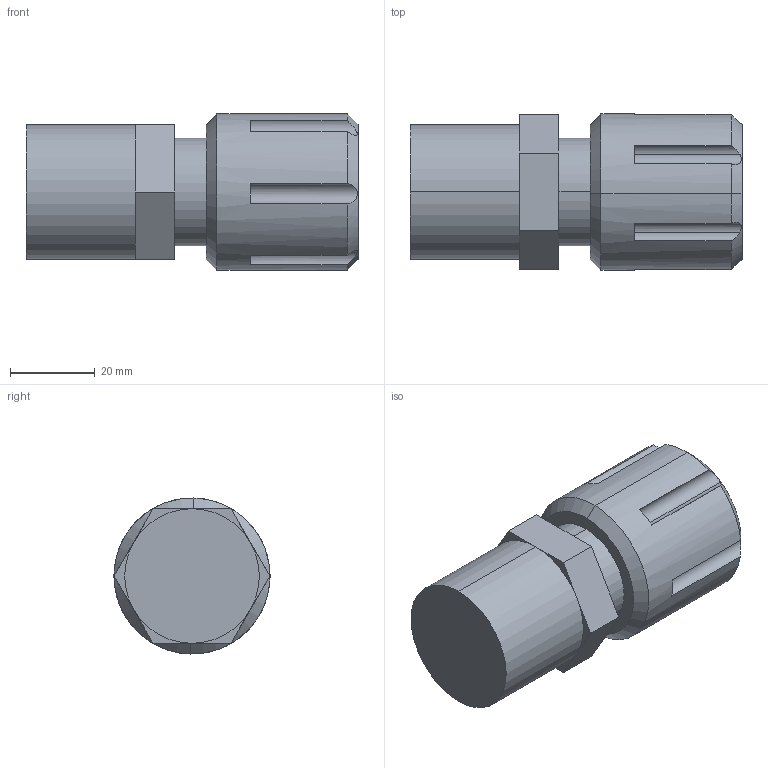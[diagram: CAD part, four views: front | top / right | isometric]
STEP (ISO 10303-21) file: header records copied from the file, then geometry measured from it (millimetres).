
FILE_DESCRIPTION (( 'STEP AP214' ), '1' );
FILE_NAME ('Fitting Flaretek Compatible 16.STEP', '2012-09-21T19:14:55', ( '' ), ( '' ), 'SwSTEP 2.0', 'SolidWorks 2012', '' );
FILE_SCHEMA (( 'AUTOMOTIVE_DESIGN' ));
Length unit declared in the file: inch
Products named in the file (1): Fitting Flaretek Compatible 16
Bounding box: 78.33 x 36.82 x 36.82 mm (x, y, z)
Volume: 65550.5 mm3; surface area: 11826.8 mm2
Topology: 1 solids, 1 shells, 43 faces, 102 edges, 64 vertices
Faces by surface type: plane 23, cylinder 16, cone 4
Entity records: 1662 total; most frequent: CARTESIAN_POINT 370, DIRECTION 226, ORIENTED_EDGE 204, EDGE_CURVE 102, AXIS2_PLACEMENT_3D 88, VERTEX_POINT 64, LINE 50, VECTOR 50
